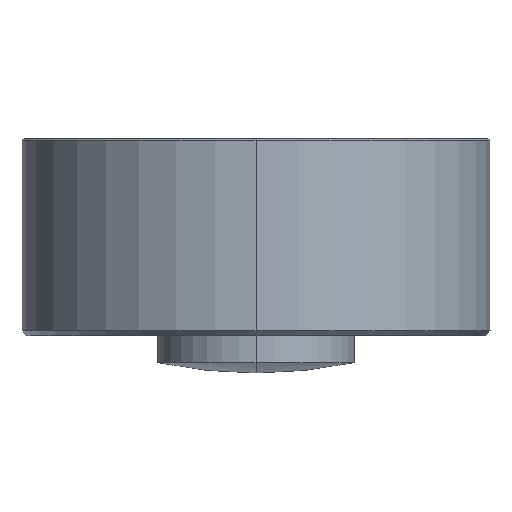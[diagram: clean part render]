
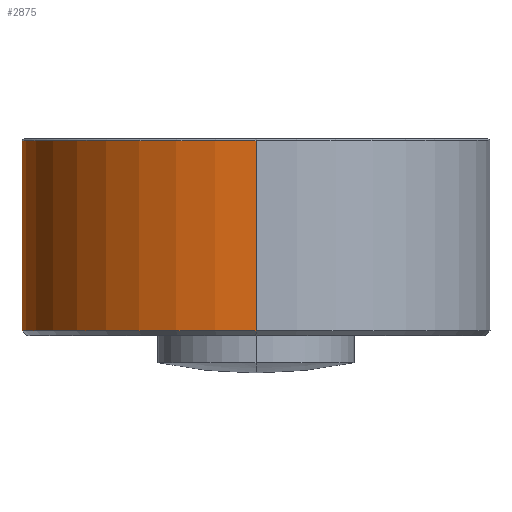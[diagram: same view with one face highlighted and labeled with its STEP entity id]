
A CAD part, left-side view. The second image highlights one B-rep face of the part: STEP entity #2875.
In plain terms, the highlighted cylindrical face has radius 25 mm (diameter 50 mm), a partial arc.
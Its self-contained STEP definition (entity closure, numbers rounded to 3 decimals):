
#217 = CARTESIAN_POINT ( 'NONE',  ( 23.5, 8.529, 3. ) ) ;
#244 = VERTEX_POINT ( 'NONE', #3266 ) ;
#260 = ORIENTED_EDGE ( 'NONE', *, *, #2220, .T. ) ;
#270 = CIRCLE ( 'NONE', #2324, 25. ) ;
#314 = DIRECTION ( 'NONE',  ( 0., 0., 1. ) ) ;
#324 = CARTESIAN_POINT ( 'NONE',  ( 0., 0., 3. ) ) ;
#351 = AXIS2_PLACEMENT_3D ( 'NONE', #324, #314, #610 ) ;
#379 = DIRECTION ( 'NONE',  ( 0., 0., -1. ) ) ;
#462 = DIRECTION ( 'NONE',  ( 0., 0., -1. ) ) ;
#485 = DIRECTION ( 'NONE',  ( 1., 0., 0. ) ) ;
#607 = VERTEX_POINT ( 'NONE', #3309 ) ;
#610 = DIRECTION ( 'NONE',  ( 1., 0., 0. ) ) ;
#752 = CARTESIAN_POINT ( 'NONE',  ( -25., 0., 21. ) ) ;
#772 = VECTOR ( 'NONE', #2873, 1000. ) ;
#911 = CARTESIAN_POINT ( 'NONE',  ( 23.5, 8.529, 3. ) ) ;
#1018 = DIRECTION ( 'NONE',  ( 0., 0., -1. ) ) ;
#1026 = VECTOR ( 'NONE', #1018, 1000. ) ;
#1319 = ORIENTED_EDGE ( 'NONE', *, *, #2111, .F. ) ;
#1358 = VECTOR ( 'NONE', #2505, 1000. ) ;
#1406 = EDGE_CURVE ( 'NONE', #3484, #244, #3653, .T. ) ;
#1500 = CARTESIAN_POINT ( 'NONE',  ( -25., 0., 20.8 ) ) ;
#1516 = CYLINDRICAL_SURFACE ( 'NONE', #2976, 25. ) ;
#1613 = EDGE_CURVE ( 'NONE', #607, #3518, #3477, .T. ) ;
#1619 = AXIS2_PLACEMENT_3D ( 'NONE', #1651, #462, #485 ) ;
#1626 = CARTESIAN_POINT ( 'NONE',  ( 25., 0., 21. ) ) ;
#1629 = LINE ( 'NONE', #1626, #1358 ) ;
#1651 = CARTESIAN_POINT ( 'NONE',  ( 0., 0., 20.8 ) ) ;
#1814 = LINE ( 'NONE', #217, #772 ) ;
#1846 = FACE_OUTER_BOUND ( 'NONE', #2424, .T. ) ;
#1890 = ORIENTED_EDGE ( 'NONE', *, *, #3218, .F. ) ;
#2062 = EDGE_CURVE ( 'NONE', #607, #2723, #1629, .T. ) ;
#2111 = EDGE_CURVE ( 'NONE', #3518, #244, #1814, .T. ) ;
#2220 = EDGE_CURVE ( 'NONE', #2723, #3186, #270, .T. ) ;
#2311 = DIRECTION ( 'NONE',  ( 0., 0., 1. ) ) ;
#2324 = AXIS2_PLACEMENT_3D ( 'NONE', #3183, #2311, #2616 ) ;
#2424 = EDGE_LOOP ( 'NONE', ( #3740, #2621, #260, #1890, #3228, #1319 ) ) ;
#2505 = DIRECTION ( 'NONE',  ( 0., 0., -1. ) ) ;
#2616 = DIRECTION ( 'NONE',  ( 1., 0., 0. ) ) ;
#2621 = ORIENTED_EDGE ( 'NONE', *, *, #2062, .T. ) ;
#2639 = LINE ( 'NONE', #752, #1026 ) ;
#2712 = DIRECTION ( 'NONE',  ( -1., 0., 0. ) ) ;
#2723 = VERTEX_POINT ( 'NONE', #3470 ) ;
#2873 = DIRECTION ( 'NONE',  ( 0., 0., 1. ) ) ;
#2875 = ADVANCED_FACE ( 'NONE', ( #1846 ), #1516, .T. ) ;
#2976 = AXIS2_PLACEMENT_3D ( 'NONE', #3647, #379, #2712 ) ;
#3183 = CARTESIAN_POINT ( 'NONE',  ( 0., 0., 0.5 ) ) ;
#3186 = VERTEX_POINT ( 'NONE', #3432 ) ;
#3218 = EDGE_CURVE ( 'NONE', #3484, #3186, #2639, .T. ) ;
#3228 = ORIENTED_EDGE ( 'NONE', *, *, #1406, .T. ) ;
#3266 = CARTESIAN_POINT ( 'NONE',  ( 23.5, 8.529, 20.8 ) ) ;
#3309 = CARTESIAN_POINT ( 'NONE',  ( 25., 0., 3. ) ) ;
#3432 = CARTESIAN_POINT ( 'NONE',  ( -25., 0., 0.5 ) ) ;
#3470 = CARTESIAN_POINT ( 'NONE',  ( 25., 0., 0.5 ) ) ;
#3477 = CIRCLE ( 'NONE', #351, 25. ) ;
#3484 = VERTEX_POINT ( 'NONE', #1500 ) ;
#3518 = VERTEX_POINT ( 'NONE', #911 ) ;
#3647 = CARTESIAN_POINT ( 'NONE',  ( 0., 0., 21. ) ) ;
#3653 = CIRCLE ( 'NONE', #1619, 25. ) ;
#3740 = ORIENTED_EDGE ( 'NONE', *, *, #1613, .F. ) ;
